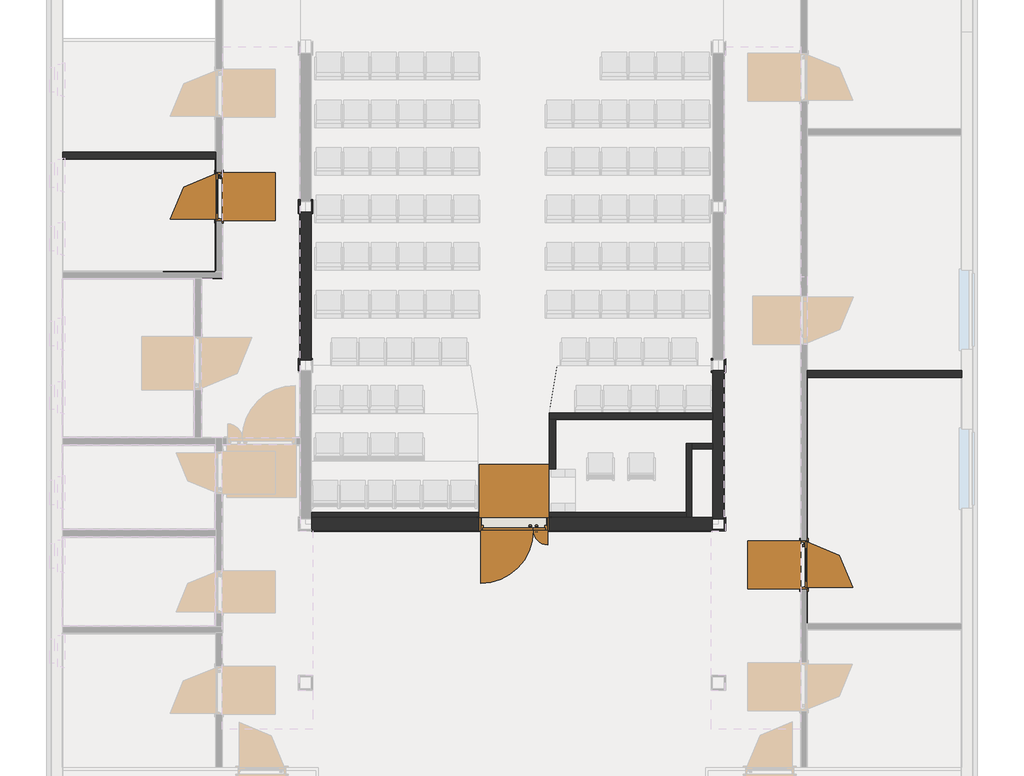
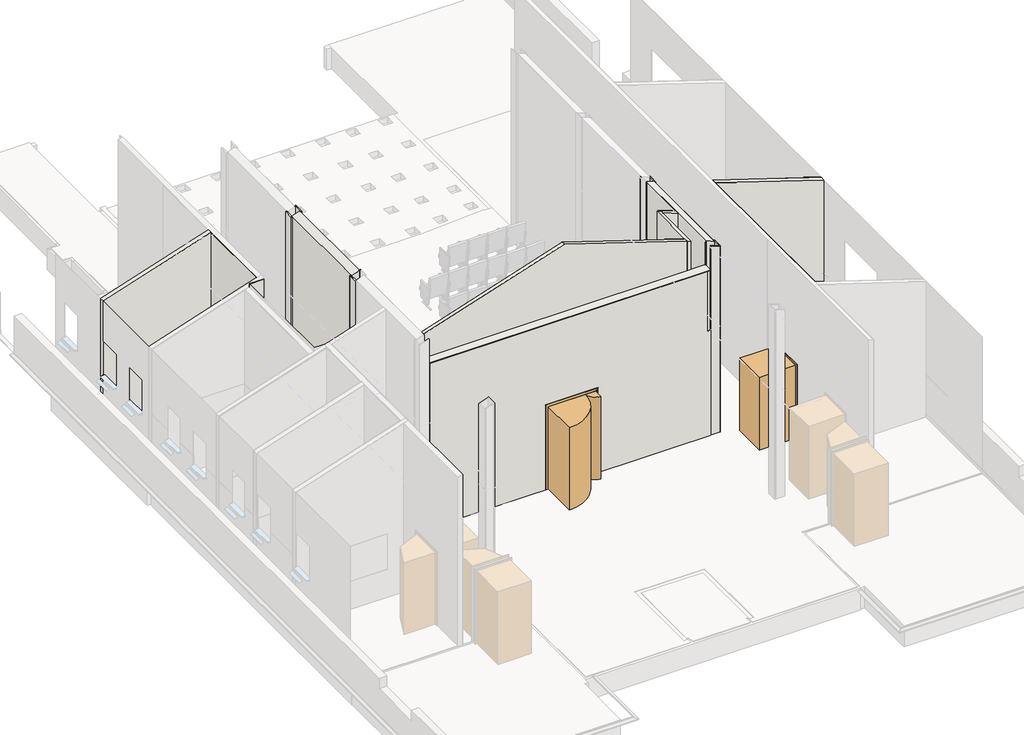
# One storey, part 5 of 12: 70 walls, 3 doors.
"""IFC4 building model written with IfcOpenShell, lengths in millimetres."""

from ifc_helpers import new_model, si_unit, frame, origin, origin_with_axes, place, context, project, spatial, polyline, outline, extrude, faceted_brep, transform, mapped, element, save
from components import door_23e4fe7f, door_8854af15, door_3526fbcb

model = new_model("IFC4")

# Units and contexts
model_context = context("Model", 3, world=origin())
ifc_project = project(units=[si_unit("LENGTHUNIT", "METRE", prefix="MILLI")], contexts=[model_context])

# Site, building, storey
site = spatial("IfcSite", under=ifc_project)
building = spatial("IfcBuilding", under=site)
storey = spatial("IfcBuildingStorey", under=building, Name="Этаж 01", Elevation=0.0)

# Doors
placement = place(None, origin())
door_shape = door_23e4fe7f(model_context)
element("IfcDoor", 1, ObjectType="Дверь_Деревянная_Внутренняя_Однопольная_ГОСТ_475-2016 : 0910 х 2070(h)_Пр_с Порогом", at=placement, inside=storey, context=model_context, shape_type="MappedRepresentation", body=[
    mapped(door_shape, transform((2862.0822865, 15194.9976367, 0.0), x_axis=(0.0, 1.0, 0.0), y_axis=(-1.0, 0.0, 0.0), z_axis=(0.0, 0.0, 1.0))),
])
door_2_shape = door_8854af15(model_context)
element("IfcDoor", 2, ObjectType="Дверь_Деревянная_Внутренняя_Двупольная_ГОСТ_475-2016 : 1310 х 2370(h)_Пр_с Порогом", at=placement, inside=storey, context=model_context, shape_type="MappedRepresentation", body=[
    mapped(door_2_shape, transform((8430.0, 8606.0, 0.0), x_axis=(1.0, 0.0, 0.0), y_axis=(0.0, 1.0, 0.0), z_axis=(0.0, 0.0, 1.0))),
])
door_3_shape = door_3526fbcb(model_context)
element("IfcDoor", 3, ObjectType="Дверь_Деревянная_Внутренняя_Однопольная_ГОСТ_475-2016 : 0910 х 2070(h)_Л_с Порогом", at=placement, inside=storey, context=model_context, shape_type="MappedRepresentation", body=[
    mapped(door_3_shape, transform((13920.675, 8230.0, 0.0), x_axis=(0.0, -1.0, 0.0), y_axis=(1.0, 0.0, 0.0), z_axis=(0.0, 0.0, 1.0))),
])

# Walls
element("IfcWall", 4, ObjectType="ADSK_Внутренняя_Кирпич_250", at=placement, inside=storey, context=model_context, shape_type="Brep", body=[
    faceted_brep([(4619.0630762, 8875.0, -1050.0), (12181.0630762, 8875.0, -1050.0), (12181.0630762, 8875.0, -627.0), (12181.0630762, 8875.0, -20.0), (12181.0630762, 8875.0, 0.0), (12181.0630762, 8875.0, 4695.0), (4619.0630762, 8875.0, 4695.0), (4619.0630762, 8875.0, 0.0), (4619.0630762, 8875.0, -20.0), (4619.0630762, 8875.0, -627.0), (9095.0, 8875.0, 2370.0), (9095.0, 8875.0, 0.0), (7785.0, 8875.0, 0.0), (7785.0, 8875.0, 2370.0), (12181.0630762, 9125.0, -1050.0), (4619.0630762, 9125.0, -1050.0), (4619.0630762, 9125.0, -612.0), (4619.0630762, 9125.0, -5.0), (4619.0630762, 9125.0, 4695.0), (12181.0630762, 9125.0, 4695.0), (12181.0630762, 9125.0, -5.0), (12181.0630762, 9125.0, -612.0), (9095.0, 9125.0, 0.0), (9095.0, 9125.0, 2370.0), (7785.0, 9125.0, 2370.0), (7785.0, 9125.0, 0.0)], [[[0, 1, 2, 3, 4, 5, 6, 7, 8, 9], [10, 11, 12, 13]], [[14, 15, 16, 17, 18, 19, 20, 21], [22, 23, 24, 25]], [[1, 0, 15, 14]], [[5, 4, 3, 2, 1, 14, 21, 20, 19]], [[6, 5, 19, 18]], [[0, 9, 8, 7, 6, 18, 17, 16, 15]], [[22, 11, 10, 23]], [[23, 10, 13, 24]], [[24, 13, 12, 25]], [[11, 22, 25, 12]]]),
])
element("IfcWall", 5, ObjectType="ADSK_Внутренняя_Кирпич_120", at=placement, inside=storey, context=model_context, shape_type="Brep", body=[
    faceted_brep([(-100.0, 15909.9976367, 100.0), (-99.0, 15909.9976367, 100.0), (-85.0, 15909.9976367, 100.0), (-85.0, 15909.9976367, -3.0), (2805.2572865, 15909.9976367, -3.0), (2805.2572865, 15909.9976367, 0.0), (2805.2572865, 15909.9976367, 4792.1143962), (-99.0, 15909.9976367, 3848.4414193), (-100.0, 15909.9976367, 3848.1164919), (-85.0, 16029.9976367, 100.0), (-100.0, 16029.9976367, 100.0), (-100.0, 16029.9976367, 3848.1164919), (2805.2572865, 16029.9976367, 4792.1143962), (2805.2572865, 16029.9976367, -3.0), (-85.0, 16029.9976367, -3.0)], [[[0, 1, 2, 3, 4, 5, 6, 7, 8]], [[9, 10, 11, 12, 13, 14]], [[12, 6, 5, 4, 13]], [[10, 9, 2, 1, 0]], [[2, 9, 14, 3]], [[8, 7, 6, 12, 11]], [[10, 0, 8, 11]], [[4, 3, 14, 13]]]),
])
element("IfcWall", 6, ObjectType="Перегородка-КНАУФ-С362-Применение внутри здания-125/75@600 ГВЛ(ГВЛВ)  12,5", at=placement, inside=storey, context=model_context, shape_type="Brep", body=[
    faceted_brep([(16900.0, 11775.0, 3848.1164919), (13980.0, 11775.0, 4796.9047088), (13980.0, 11775.0, -3.0), (16885.0, 11775.0, -3.0), (16885.0, 11775.0, 100.0), (16899.0, 11775.0, 100.0), (16900.0, 11775.0, 100.0), (13980.0, 11900.0, 4796.9047088), (16900.0, 11900.0, 3848.1164919), (16900.0, 11900.0, 100.0), (16899.0, 11900.0, 100.0), (16885.0, 11900.0, 100.0), (16885.0, 11900.0, -3.0), (13980.0, 11900.0, -3.0)], [[[0, 1, 2, 3, 4, 5, 6]], [[7, 8, 9, 10, 11, 12, 13]], [[1, 7, 13, 2]], [[11, 4, 3, 12]], [[1, 0, 8, 7]], [[3, 2, 13, 12]], [[8, 0, 6, 9]], [[6, 5, 4, 11, 10, 9]]]),
])
element("IfcWall", 7, ObjectType="Перегородка-КНАУФ-С365-Применение внутри здания-200/75@600 ГВЛ(ГВЛВ)  12,5", at=placement, inside=storey, context=model_context, shape_type="SweptSolid", body=[
    extrude(outline(polyline([(-20.0, 12405.0), (5308.6654765, 12405.0), (5376.9002455, 12195.0), (-20.0, 12195.0), (-20.0, 12405.0)])), frame((0.0, 9100.0, 0.0), z_axis=(0.0, 1.0, 0.0), x_axis=(0.0, 0.0, 1.0)), (0.0, 0.0, 1.0), 2800.0),
])
element("IfcWall", 8, ObjectType="Перегородка-КНАУФ-С365-Применение внутри здания-200/75@600 ГВЛ(ГВЛВ)  12,5", at=placement, inside=storey, context=model_context, shape_type="Brep", body=[
    faceted_brep([(4395.0630762, 14900.0, -20.0), (4395.0630762, 12100.0, -20.0), (4395.0630762, 12100.0, 5308.6859716), (4395.0630762, 12133.5, 5308.6859716), (4395.0630762, 14867.5, 5308.6859716), (4395.0630762, 14900.0, 5308.6859716), (4605.0630762, 14900.0, -20.0), (4605.0630762, 14900.0, 5376.9207407), (4605.0630762, 12100.0, 5376.9207407), (4605.0630762, 12100.0, -20.0)], [[[0, 1, 2, 3, 4, 5]], [[6, 7, 8, 9]], [[1, 0, 6, 9]], [[2, 1, 9, 8]], [[0, 5, 7, 6]], [[5, 4, 3, 2, 8, 7]]]),
])
element("IfcWall", 9, ObjectType="Облицовка КНАУФ С625 Применение внутри здания ПС100х50 ПН100х40 шаг 300 ГСП-А 12.5", at=placement, inside=storey, context=model_context, shape_type="Brep", body=[
    faceted_brep([(11795.0, 9125.0, 0.0), (11795.0, 10424.9970271, 0.0), (11795.0, 10524.9970271, 0.0), (11795.0, 10524.9970271, 5506.8712341), (11795.0, 10424.9970271, 5506.8712341), (11795.0, 9125.0, 5506.8712341), (11695.0, 9125.0, 0.0), (11695.0, 9125.0, 5539.3639813), (11695.0, 9225.0, 5539.3639813), (11695.0, 10524.9970271, 5539.3639813), (11695.0, 10524.9970271, 0.0), (11695.0, 9225.0, 0.0)], [[[0, 1, 2, 3, 4, 5]], [[6, 7, 8, 9, 10, 11]], [[2, 1, 0, 6, 11, 10]], [[0, 5, 7, 6]], [[3, 2, 10, 9]], [[5, 4, 3, 9, 8, 7]]]),
])
element("IfcWall", 10, ObjectType="Облицовка КНАУФ С625 Применение внутри здания ПС100х50 ПН100х40 шаг 300 ГСП-А 12.5", at=placement, inside=storey, context=model_context, shape_type="SweptSolid", body=[
    extrude(outline(polyline([(0.0, 11795.0), (0.0, 12195.0), (5376.9002455, 12195.0), (5506.8712341, 11795.0), (0.0, 11795.0)])), frame((0.0, 10424.9970271, 0.0), z_axis=(0.0, 1.0, 0.0), x_axis=(0.0, 0.0, 1.0)), (0.0, 0.0, 1.0), 100.0),
])
element("IfcWall", 11, ObjectType="Доска ДП-35", at=placement, inside=storey, context=model_context, shape_type="Brep", body=[
    faceted_brep([(9105.0, 10044.991998, -5.0), (9655.0, 10044.991998, -5.0), (9655.0, 10044.991998, 505.0), (9105.0, 10044.991998, 505.0), (9105.0, 10079.991998, -5.0), (9105.0, 10079.991998, 505.0), (9140.0, 10079.991998, 505.0), (9655.0, 10079.991998, 505.0), (9655.0, 10079.991998, -5.0), (9140.0, 10079.991998, -5.0)], [[[0, 1, 2, 3]], [[4, 5, 6, 7, 8, 9]], [[1, 0, 4, 9, 8]], [[2, 1, 8, 7]], [[3, 2, 7, 6, 5]], [[0, 3, 5, 4]]]),
])
element("IfcWall", 12, ObjectType="Доска ДП-35", at=placement, inside=storey, context=model_context, shape_type="Brep", body=[
    faceted_brep([(9140.0, 10079.991998, -5.0), (9140.0, 11086.7055724, -5.0), (9140.0, 11086.7055724, 145.0), (9140.0, 11084.9999997, 145.0), (9140.0, 11084.9999997, 180.0), (9140.0, 11084.9999997, 505.0), (9140.0, 11049.9999997, 505.0), (9140.0, 10079.991998, 505.0), (9105.0, 11089.5641537, -5.0), (9105.0, 10079.991998, -5.0), (9105.0, 10079.991998, 505.0), (9105.0, 11084.9999997, 505.0), (9105.0, 11084.9999997, 180.0), (9105.0, 11084.9999997, 145.0), (9105.0, 11089.5641537, 145.0)], [[[0, 1, 2, 3, 4, 5, 6, 7]], [[8, 9, 10, 11, 12, 13, 14]], [[1, 0, 9, 8]], [[7, 6, 5, 11, 10]], [[0, 7, 10, 9]], [[1, 8, 14, 2]], [[3, 13, 12, 11, 5, 4]], [[13, 3, 2, 14]]]),
])
element("IfcWall", 13, ObjectType="Доска ДП-35", at=placement, inside=storey, context=model_context, shape_type="Brep", body=[
    faceted_brep([(9140.0, 11086.7055724, -5.0), (9281.9639734, 11949.9999997, -5.0), (9287.719529, 11984.9999997, -5.0), (9287.719529, 11984.9999997, 145.0), (9281.9639734, 11949.9999997, 145.0), (9140.0, 11086.7055724, 145.0), (9105.0, 11089.5641537, -5.0), (9105.0, 11089.5641537, 145.0), (9252.2494511, 11984.9999997, 145.0), (9252.2494511, 11984.9999997, -5.0)], [[[0, 1, 2, 3, 4, 5]], [[6, 7, 8, 9]], [[2, 1, 0, 6, 9]], [[5, 4, 3, 8, 7]], [[3, 2, 9, 8]], [[0, 5, 7, 6]]]),
])
element("IfcWall", 14, ObjectType="Доска ДП-35", at=placement, inside=storey, context=model_context, shape_type="SweptSolid", body=[
    extrude(outline(polyline([(12195.0, 11949.9999997), (9281.9639734, 11949.9999997), (9287.719529, 11984.9999997), (12195.0, 11984.9999997), (12195.0, 11949.9999997)])), frame((0.0, 0.0, -5.0), z_axis=(0.0, 0.0, 1.0), x_axis=(1.0, 0.0, 0.0)), (0.0, 0.0, 1.0), 150.0),
])
element("IfcWall", 15, ObjectType="Доска ДП-35", at=placement, inside=storey, context=model_context, shape_type="SweptSolid", body=[
    extrude(outline(polyline([(12195.0, 11049.9999997), (9140.0, 11049.9999997), (9140.0, 11084.9999997), (12195.0, 11084.9999997), (12195.0, 11049.9999997)])), frame((0.0, 0.0, 180.0), z_axis=(0.0, 0.0, 1.0), x_axis=(1.0, 0.0, 0.0)), (0.0, 0.0, 1.0), 325.0),
])
element("IfcWall", 16, ObjectType="Перегородка-КНАУФ-С362-Применение внутри здания-100/50@600 ГВЛ(ГВЛВ) 12,5", at=placement, inside=storey, context=model_context, shape_type="Brep", body=[
    faceted_brep([(9105.0, 10975.0, 540.0), (9230.0, 10975.0, 540.0), (12195.0, 10975.0, 540.0), (12195.0, 10975.0, 1440.0), (9230.0, 10975.0, 1440.0), (9105.0, 10975.0, 1440.0), (9105.0, 11100.0, 540.0), (9105.0, 11100.0, 1440.0), (12195.0, 11100.0, 1440.0), (12195.0, 11100.0, 540.0)], [[[0, 1, 2, 3, 4, 5]], [[6, 7, 8, 9]], [[2, 1, 0, 6, 9]], [[5, 4, 3, 8, 7]], [[0, 5, 7, 6]], [[3, 2, 9, 8]]]),
])
element("IfcWall", 17, ObjectType="Перегородка-КНАУФ-С362-Применение внутри здания-100/50@600 ГВЛ(ГВЛВ) 12,5", at=placement, inside=storey, context=model_context, shape_type="SweptSolid", body=[
    extrude(outline(polyline([(9230.0, 10975.0), (9230.0, 10045.0), (9105.0, 10045.0), (9105.0, 10975.0), (9230.0, 10975.0)])), frame((0.0, 0.0, 540.0), z_axis=(0.0, 0.0, 1.0), x_axis=(1.0, 0.0, 0.0)), (0.0, 0.0, 1.0), 900.0),
])
element("IfcWall", 18, ObjectType="Отделка - Акриловая покраска_1 мм_Улучш. штук. по кирп._9 мм", at=placement, inside=storey, context=model_context, shape_type="Brep", body=[
    faceted_brep([(2805.2572865, 15909.9976367, 0.0), (-100.0, 15909.9976367, 0.0), (-100.0, 15909.9976367, 100.0), (-100.0, 15909.9976367, 3848.1164919), (2805.2572865, 15909.9976367, 4792.1143962), (2805.2572865, 15899.9976367, 0.0), (2805.2572865, 15899.9976367, 4792.1143962), (2795.2572865, 15899.9976367, 4788.8651214), (-100.0, 15899.9976367, 3848.1164919), (-100.0, 15899.9976367, 2700.0), (-100.0, 15899.9976367, 1700.0), (-100.0, 15899.9976367, 0.0), (2795.2572865, 15899.9976367, 0.0)], [[[0, 1, 2, 3, 4]], [[5, 6, 7, 8, 9, 10, 11, 12]], [[1, 0, 5, 12, 11]], [[0, 4, 6, 5]], [[4, 3, 8, 7, 6]], [[1, 11, 10, 9, 8, 3, 2]]]),
])
element("IfcWall", 19, ObjectType="Отделка - Акриловая покраска_1 мм_Улучш. штук. по кирп._9 мм", at=placement, inside=storey, context=model_context, shape_type="Brep", body=[
    faceted_brep([(2805.2572865, 15899.9976367, 0.0), (2805.2572865, 15899.9976367, 4792.1143962), (2805.2572865, 13780.0024506, 4792.1143962), (2805.2572865, 13780.0024506, 0.0), (2805.2572865, 14739.9976367, 0.0), (2805.2572865, 14739.9976367, 2070.0), (2805.2572865, 15649.9976367, 2070.0), (2805.2572865, 15649.9976367, 0.0), (2795.2572865, 15899.9976367, 4788.8651214), (2795.2572865, 15899.9976367, 0.0), (2795.2572865, 15649.9976367, 0.0), (2795.2572865, 15649.9976367, 2070.0), (2795.2572865, 14739.9976367, 2070.0), (2795.2572865, 14739.9976367, 0.0), (2795.2572865, 13780.0024506, 0.0), (2795.2572865, 13780.0024506, 800.0), (2795.2572865, 13780.0024506, 1800.0), (2795.2572865, 13780.0024506, 4788.8651214)], [[[0, 1, 2, 3, 4, 5, 6, 7]], [[8, 9, 10, 11, 12, 13, 14, 15, 16, 17]], [[9, 0, 7, 10]], [[3, 14, 13, 4]], [[1, 0, 9, 8]], [[2, 1, 8, 17]], [[6, 11, 10, 7]], [[11, 6, 5, 12]], [[12, 5, 4, 13]], [[14, 3, 2, 17, 16, 15]]]),
])
element("IfcWall", 20, ObjectType="Облицовка КНАУФ С 623C Применение внутри здания ПП60/27 ПН28х27 ГСП-А 12.5 Акустика 12.5", at=placement, inside=storey, context=model_context, shape_type="Brep", body=[
    faceted_brep([(11695.0, 9125.0, 0.0), (11695.0, 9125.0, 5539.3639813), (8400.0, 9125.0, 6610.0), (4619.0630762, 9125.0, 5381.4697253), (4605.0630762, 9125.0, 5376.9207407), (4605.0630762, 9125.0, 0.0), (7785.0, 9125.0, 0.0), (7785.0, 9125.0, 2370.0), (9095.0, 9125.0, 2370.0), (9095.0, 9125.0, 0.0), (11695.0, 9225.0, 5539.3639813), (11695.0, 9225.0, 0.0), (11694.0, 9225.0, 0.0), (9095.0, 9225.0, 0.0), (9095.0, 9225.0, 2370.0), (7785.0, 9225.0, 2370.0), (7785.0, 9225.0, 0.0), (4606.0630762, 9225.0, 0.0), (4605.0630762, 9225.0, 0.0), (4605.0630762, 9225.0, 5376.9207407), (4606.0630762, 9225.0, 5377.2456681), (8400.0, 9225.0, 6610.0), (11694.0, 9225.0, 5539.6889087)], [[[0, 1, 2, 3, 4, 5, 6, 7, 8, 9]], [[10, 11, 12, 13, 14, 15, 16, 17, 18, 19, 20, 21, 22]], [[11, 0, 9, 13, 12]], [[5, 18, 17, 16, 6]], [[1, 0, 11, 10]], [[8, 14, 13, 9]], [[14, 8, 7, 15]], [[15, 7, 6, 16]], [[4, 3, 2, 21, 20, 19]], [[1, 10, 22, 21, 2]], [[5, 4, 19, 18]]]),
])
element("IfcWall", 21, ObjectType="Отделка - Акриловая покраска_1 мм_Улучш. штук. по кирп._9 мм", at=placement, inside=storey, context=model_context, shape_type="Brep", body=[
    faceted_brep([(2925.2572865, 13650.0024506, 0.0), (2525.0415712, 13650.0024506, 0.0), (2525.0415712, 13650.0024506, 4792.1143962), (2925.2572865, 13650.0024506, 4792.1143962), (2925.2572865, 13640.0024506, 0.0), (2925.2572865, 13640.0024506, 4792.1143962), (2535.0415712, 13640.0024506, 4792.1143962), (2525.0415712, 13640.0024506, 4792.1143962), (2525.0415712, 13640.0024506, 0.0), (2535.0415712, 13640.0024506, 0.0)], [[[0, 1, 2, 3]], [[4, 5, 6, 7, 8, 9]], [[1, 0, 4, 9, 8]], [[3, 2, 7, 6, 5]], [[0, 3, 5, 4]], [[2, 1, 8, 7]]]),
])
element("IfcWall", 22, ObjectType="Отделка - Акриловая покраска по Кнауф-суперлистам_1 мм", at=placement, inside=storey, context=model_context, shape_type="SweptSolid", body=[
    extrude(outline(polyline([(0.0, 13981.0), (0.0, 16885.0), (100.0, 16885.0), (100.0, 16900.0), (3848.1164919, 16900.0), (4796.5797813, 13981.0), (0.0, 13981.0)])), frame((0.0, 11900.0, 0.0), z_axis=(0.0, 1.0, 0.0), x_axis=(0.0, 0.0, 1.0)), (0.0, 0.0, 1.0), 1.0),
])
element("IfcWall", 23, ObjectType="Отделка - Акриловая покраска по Кнауф-суперлистам_1 мм", at=placement, inside=storey, context=model_context, shape_type="Brep", body=[
    faceted_brep([(16885.0, 11775.0, 0.0), (13980.0, 11775.0, 0.0), (13980.0, 11775.0, 4796.9047088), (16900.0, 11775.0, 3848.1164919), (16900.0, 11775.0, 100.0), (16885.0, 11775.0, 100.0), (16885.0, 11774.0, 0.0), (16885.0, 11774.0, 100.0), (16900.0, 11774.0, 100.0), (16900.0, 11774.0, 3848.1164919), (13981.0, 11774.0, 4796.5797813), (13980.0, 11774.0, 4796.9047088), (13980.0, 11774.0, 0.0), (13981.0, 11774.0, 0.0)], [[[0, 1, 2, 3, 4, 5]], [[6, 7, 8, 9, 10, 11, 12, 13]], [[1, 0, 6, 13, 12]], [[4, 8, 7, 5]], [[0, 5, 7, 6]], [[3, 9, 8, 4]], [[3, 2, 11, 10, 9]], [[2, 1, 12, 11]]]),
])
element("IfcWall", 24, ObjectType="Отделка - Акриловая покраска по Кнауф-суперлистам_1 мм", at=placement, inside=storey, context=model_context, shape_type="Brep", body=[
    faceted_brep([(13980.0, 7125.0, 4796.9047088), (13980.0, 11774.0, 4796.9047088), (13980.0, 11774.0, 0.0), (13980.0, 8685.0, 0.0), (13980.0, 8685.0, 2070.0), (13980.0, 7775.0, 2070.0), (13980.0, 7775.0, 0.0), (13980.0, 7125.0, 0.0), (13981.0, 11774.0, 4796.5797813), (13981.0, 7126.0, 4796.5797813), (13981.0, 7125.0, 4796.5797813), (13981.0, 7125.0, 0.0), (13981.0, 7126.0, 0.0), (13981.0, 7775.0, 0.0), (13981.0, 7775.0, 2070.0), (13981.0, 8685.0, 2070.0), (13981.0, 8685.0, 0.0), (13981.0, 11774.0, 0.0)], [[[0, 1, 2, 3, 4, 5, 6, 7]], [[8, 9, 10, 11, 12, 13, 14, 15, 16, 17]], [[11, 7, 6, 13, 12]], [[2, 17, 16, 3]], [[5, 14, 13, 6]], [[14, 5, 4, 15]], [[15, 4, 3, 16]], [[1, 0, 10, 9, 8]], [[0, 7, 11, 10]], [[2, 1, 8, 17]]]),
])
element("IfcWall", 25, ObjectType="Облицовка КНАУФ 12,5", at=placement, inside=storey, context=model_context, shape_type="Brep", body=[
    faceted_brep([(4395.0630762, 15132.5, 0.0), (4362.0630759, 15132.5, 0.0), (4362.0630759, 15132.5, 5297.963365), (4395.0630762, 15132.5, 5308.6859716), (4395.0630762, 15107.5, 0.0), (4395.0630762, 15107.5, 5308.6859716), (4387.0630759, 15107.5, 5306.0865518), (4362.0630759, 15107.5, 5297.963365), (4362.0630759, 15107.5, 0.0), (4387.0630759, 15107.5, 0.0)], [[[0, 1, 2, 3]], [[4, 5, 6, 7, 8, 9]], [[1, 0, 4, 9, 8]], [[0, 3, 5, 4]], [[2, 1, 8, 7]], [[3, 2, 7, 6, 5]]]),
])
element("IfcWall", 26, ObjectType="Облицовка КНАУФ 12,5", at=placement, inside=storey, context=model_context, shape_type="SweptSolid", body=[
    extrude(outline(polyline([(5297.963365, 4362.0630759), (0.0, 4362.0630759), (0.0, 4387.0630759), (5306.0865518, 4387.0630759), (5297.963365, 4362.0630759)])), frame((0.0, 14892.5, 0.0), z_axis=(0.0, 1.0, 0.0), x_axis=(0.0, 0.0, 1.0)), (0.0, 0.0, 1.0), 215.0),
])
element("IfcWall", 27, ObjectType="Облицовка КНАУФ 12,5", at=placement, inside=storey, context=model_context, shape_type="Brep", body=[
    faceted_brep([(4362.0630759, 14867.5, 0.0), (4395.0630762, 14867.5, 0.0), (4395.0630762, 14867.5, 5308.6859716), (4362.0630759, 14867.5, 5297.963365), (4362.0630759, 14892.5, 0.0), (4362.0630759, 14892.5, 5297.963365), (4387.0630759, 14892.5, 5306.0865518), (4395.0630762, 14892.5, 5308.6859716), (4395.0630762, 14892.5, 0.0), (4387.0630759, 14892.5, 0.0)], [[[0, 1, 2, 3]], [[4, 5, 6, 7, 8, 9]], [[1, 0, 4, 9, 8]], [[2, 1, 8, 7]], [[0, 3, 5, 4]], [[3, 2, 7, 6, 5]]]),
])
element("IfcWall", 28, ObjectType="Облицовка КНАУФ 12,5", at=placement, inside=storey, context=model_context, shape_type="Brep", body=[
    faceted_brep([(4605.0630762, 15107.5, 0.0), (4613.0630765, 15107.5, 0.0), (4638.0630765, 15107.5, 0.0), (4638.0630765, 15107.5, 5387.6433473), (4613.0630765, 15107.5, 5379.5201605), (4605.0630762, 15107.5, 5376.9207407), (4605.0630762, 15132.5, 0.0), (4605.0630762, 15132.5, 5376.9207407), (4638.0630765, 15132.5, 5387.6433473), (4638.0630765, 15132.5, 0.0)], [[[0, 1, 2, 3, 4, 5]], [[6, 7, 8, 9]], [[2, 1, 0, 6, 9]], [[0, 5, 7, 6]], [[3, 2, 9, 8]], [[5, 4, 3, 8, 7]]]),
])
element("IfcWall", 29, ObjectType="Облицовка КНАУФ 12,5", at=placement, inside=storey, context=model_context, shape_type="Brep", body=[
    faceted_brep([(4613.0630765, 15107.5, 0.0), (4613.0630765, 14892.5, 0.0), (4613.0630765, 14867.5, 0.0), (4613.0630765, 14867.5, 5379.5201605), (4613.0630765, 14892.5, 5379.5201605), (4613.0630765, 15107.5, 5379.5201605), (4638.0630765, 15107.5, 0.0), (4638.0630765, 15107.5, 5387.6433473), (4638.0630765, 14867.5, 5387.6433473), (4638.0630765, 14867.5, 0.0)], [[[0, 1, 2, 3, 4, 5]], [[6, 7, 8, 9]], [[2, 1, 0, 6, 9]], [[3, 2, 9, 8]], [[0, 5, 7, 6]], [[5, 4, 3, 8, 7]]]),
])
element("IfcWall", 30, ObjectType="Облицовка КНАУФ 12,5", at=placement, inside=storey, context=model_context, shape_type="SweptSolid", body=[
    extrude(outline(polyline([(0.0, 4613.0630765), (5379.5201605, 4613.0630765), (5376.9207407, 4605.0630762), (0.0, 4605.0630762), (0.0, 4613.0630765)])), frame((0.0, 14867.5, 0.0), z_axis=(0.0, 1.0, 0.0), x_axis=(0.0, 0.0, 1.0)), (0.0, 0.0, 1.0), 25.0),
])
element("IfcWall", 31, ObjectType="Облицовка КНАУФ 12,5", at=placement, inside=storey, context=model_context, shape_type="Brep", body=[
    faceted_brep([(4395.0630762, 12132.5, 0.0), (4362.0630759, 12132.5, 0.0), (4362.0630759, 12132.5, 5297.963365), (4395.0630762, 12132.5, 5308.6859716), (4395.0630762, 12107.5, 0.0), (4395.0630762, 12107.5, 5308.6859716), (4387.0630759, 12107.5, 5306.0865518), (4362.0630759, 12107.5, 5297.963365), (4362.0630759, 12107.5, 0.0), (4387.0630759, 12107.5, 0.0)], [[[0, 1, 2, 3]], [[4, 5, 6, 7, 8, 9]], [[1, 0, 4, 9, 8]], [[0, 3, 5, 4]], [[2, 1, 8, 7]], [[3, 2, 7, 6, 5]]]),
])
element("IfcWall", 32, ObjectType="Облицовка КНАУФ 12,5", at=placement, inside=storey, context=model_context, shape_type="SweptSolid", body=[
    extrude(outline(polyline([(5297.963365, 4362.0630759), (0.0, 4362.0630759), (0.0, 4387.0630759), (5306.0865518, 4387.0630759), (5297.963365, 4362.0630759)])), frame((0.0, 11892.5, 0.0), z_axis=(0.0, 1.0, 0.0), x_axis=(0.0, 0.0, 1.0)), (0.0, 0.0, 1.0), 215.0),
])
element("IfcWall", 33, ObjectType="Облицовка КНАУФ 12,5", at=placement, inside=storey, context=model_context, shape_type="Brep", body=[
    faceted_brep([(4605.0630762, 12107.5, 0.0), (4613.0630765, 12107.5, 0.0), (4638.0630765, 12107.5, 0.0), (4638.0630765, 12107.5, 5387.6433473), (4613.0630765, 12107.5, 5379.5201605), (4605.0630762, 12107.5, 5376.9207407), (4605.0630762, 12132.5, 0.0), (4605.0630762, 12132.5, 5376.9207407), (4638.0630765, 12132.5, 5387.6433473), (4638.0630765, 12132.5, 0.0)], [[[0, 1, 2, 3, 4, 5]], [[6, 7, 8, 9]], [[2, 1, 0, 6, 9]], [[0, 5, 7, 6]], [[3, 2, 9, 8]], [[5, 4, 3, 8, 7]]]),
])
element("IfcWall", 34, ObjectType="Облицовка КНАУФ 12,5", at=placement, inside=storey, context=model_context, shape_type="Brep", body=[
    faceted_brep([(12195.0, 12132.5, 0.0), (12161.9999997, 12132.5, 0.0), (12161.9999997, 12132.5, 5387.6228521), (12195.0, 12132.5, 5376.9002455), (12195.0, 12107.5, 0.0), (12195.0, 12107.5, 5376.9002455), (12186.9999997, 12107.5, 5379.4996654), (12161.9999997, 12107.5, 5387.6228521), (12161.9999997, 12107.5, 0.0), (12186.9999997, 12107.5, 0.0)], [[[0, 1, 2, 3]], [[4, 5, 6, 7, 8, 9]], [[1, 0, 4, 9, 8]], [[0, 3, 5, 4]], [[2, 1, 8, 7]], [[3, 2, 7, 6, 5]]]),
])
element("IfcWall", 35, ObjectType="Облицовка КНАУФ 12,5", at=placement, inside=storey, context=model_context, shape_type="Brep", body=[
    faceted_brep([(12161.9999997, 11867.5, 0.0), (12195.0, 11867.5, 0.0), (12195.0, 11867.5, 5376.9002455), (12161.9999997, 11867.5, 5387.6228521), (12161.9999997, 11892.5, 0.0), (12161.9999997, 11892.5, 5387.6228521), (12186.9999997, 11892.5, 5379.4996654), (12195.0, 11892.5, 5376.9002455), (12195.0, 11892.5, 0.0), (12186.9999997, 11892.5, 0.0)], [[[0, 1, 2, 3]], [[4, 5, 6, 7, 8, 9]], [[1, 0, 4, 9, 8]], [[2, 1, 8, 7]], [[0, 3, 5, 4]], [[3, 2, 7, 6, 5]]]),
])
element("IfcWall", 36, ObjectType="Облицовка КНАУФ 12,5", at=placement, inside=storey, context=model_context, shape_type="Brep", body=[
    faceted_brep([(12413.0000003, 12107.5, 0.0), (12413.0000003, 11892.5, 0.0), (12413.0000003, 11867.5, 0.0), (12413.0000003, 11867.5, 5306.0660566), (12413.0000003, 11892.5, 5306.0660566), (12413.0000003, 12107.5, 5306.0660566), (12438.0000003, 12107.5, 0.0), (12438.0000003, 12107.5, 5297.9428698), (12438.0000003, 11867.5, 5297.9428698), (12438.0000003, 11867.5, 0.0)], [[[0, 1, 2, 3, 4, 5]], [[6, 7, 8, 9]], [[2, 1, 0, 6, 9]], [[3, 2, 9, 8]], [[0, 5, 7, 6]], [[5, 4, 3, 8, 7]]]),
])
element("IfcWall", 37, ObjectType="Облицовка КНАУФ 12,5", at=placement, inside=storey, context=model_context, shape_type="SweptSolid", body=[
    extrude(outline(polyline([(0.0, 12413.0000003), (5306.0660566, 12413.0000003), (5308.6654765, 12405.0), (0.0, 12405.0), (0.0, 12413.0000003)])), frame((0.0, 11867.5, 0.0), z_axis=(0.0, 1.0, 0.0), x_axis=(0.0, 0.0, 1.0)), (0.0, 0.0, 1.0), 25.0),
])
element("IfcWall", 38, ObjectType="Облицовка КНАУФ 12,5", at=placement, inside=storey, context=model_context, shape_type="Brep", body=[
    faceted_brep([(12181.0630762, 8875.0, 0.0), (12437.4369238, 8875.0, 0.0), (12437.4369238, 8875.0, 5298.1258288), (12181.0630762, 8875.0, 5381.4287349), (12181.0630762, 8875.0, 4695.0), (12181.0630762, 8900.0, 0.0), (12181.0630762, 8900.0, 5381.4287349), (12412.4369238, 8900.0, 5306.2490156), (12437.4369238, 8900.0, 5298.1258288), (12437.4369238, 8900.0, 0.0), (12412.4369238, 8900.0, 0.0)], [[[0, 1, 2, 3, 4]], [[5, 6, 7, 8, 9, 10]], [[1, 0, 5, 10, 9]], [[0, 4, 3, 6, 5]], [[2, 1, 9, 8]], [[3, 2, 8, 7, 6]]]),
])
element("IfcWall", 39, ObjectType="Облицовка КНАУФ 12,5", at=placement, inside=storey, context=model_context, shape_type="SweptSolid", body=[
    extrude(outline(polyline([(5306.2490156, 12412.4369238), (0.0, 12412.4369238), (0.0, 12437.4369238), (5298.1258288, 12437.4369238), (5306.2490156, 12412.4369238)])), frame((0.0, 8900.0, 0.0), z_axis=(0.0, 1.0, 0.0), x_axis=(0.0, 0.0, 1.0)), (0.0, 0.0, 1.0), 207.0),
])
element("IfcWall", 40, ObjectType="Облицовка КНАУФ 12,5", at=placement, inside=storey, context=model_context, shape_type="Brep", body=[
    faceted_brep([(12404.9369238, 9107.0, 0.0), (12412.4369238, 9107.0, 0.0), (12437.4369238, 9107.0, 0.0), (12437.4369238, 9107.0, 5298.1258288), (12412.4369238, 9107.0, 5306.2490156), (12404.9369238, 9107.0, 5308.6859716), (12404.9369238, 9132.0, 0.0), (12404.9369238, 9132.0, 5308.6859716), (12437.4369238, 9132.0, 5298.1258288), (12437.4369238, 9132.0, 0.0)], [[[0, 1, 2, 3, 4, 5]], [[6, 7, 8, 9]], [[2, 1, 0, 6, 9]], [[0, 5, 7, 6]], [[3, 2, 9, 8]], [[5, 4, 3, 8, 7]]]),
])
element("IfcWall", 41, ObjectType="Облицовка КНАУФ 12,5", at=placement, inside=storey, context=model_context, shape_type="Brep", body=[
    faceted_brep([(12195.0630762, 9125.0, 0.0), (12181.0630762, 9125.0, 0.0), (12181.0630762, 9125.0, 4695.0), (12181.0630762, 9125.0, 5381.4287349), (12195.0630762, 9125.0, 5376.8797503), (12195.0630762, 9100.0, 0.0), (12195.0630762, 9100.0, 5376.8797503), (12181.0630762, 9100.0, 5381.4287349), (12181.0630762, 9100.0, 0.0)], [[[0, 1, 2, 3, 4]], [[5, 6, 7, 8]], [[1, 0, 5, 8]], [[3, 2, 1, 8, 7]], [[0, 4, 6, 5]], [[4, 3, 7, 6]]]),
])
element("IfcWall", 42, ObjectType="Отделка - Акриловая покраска по Кнауф-суперлистам_1 мм", at=placement, inside=storey, context=model_context, shape_type="SweptSolid", body=[
    extrude(outline(polyline([(0.0, 4395.0630762), (5308.6859716, 4395.0630762), (5308.3610442, 4394.0630762), (0.0, 4394.0630762), (0.0, 4395.0630762)])), frame((0.0, 15042.5, 0.0), z_axis=(0.0, 1.0, 0.0), x_axis=(0.0, 0.0, 1.0)), (0.0, 0.0, 1.0), 52.7588455),
])
element("IfcWall", 43, ObjectType="Отделка - Акриловая покраска по Кнауф-суперлистам_1 мм", at=placement, inside=storey, context=model_context, shape_type="Brep", body=[
    faceted_brep([(4394.0630762, 14867.5, 0.0), (4362.0630762, 14867.5, 0.0), (4361.0630762, 14867.5, 0.0), (4361.0630762, 14867.5, 5297.6384376), (4362.0630762, 14867.5, 5297.9633651), (4394.0630762, 14867.5, 5308.3610442), (4394.0630762, 14866.5, 0.0), (4394.0630762, 14866.5, 5308.3610442), (4361.0630762, 14866.5, 5297.6384376), (4361.0630762, 14866.5, 0.0)], [[[0, 1, 2, 3, 4, 5]], [[6, 7, 8, 9]], [[2, 1, 0, 6, 9]], [[3, 2, 9, 8]], [[0, 5, 7, 6]], [[5, 4, 3, 8, 7]]]),
])
element("IfcWall", 44, ObjectType="Отделка - Акриловая покраска по Кнауф-суперлистам_1 мм", at=placement, inside=storey, context=model_context, shape_type="Brep", body=[
    faceted_brep([(4362.0630762, 14867.5, 0.0), (4362.0630762, 15132.5, 0.0), (4362.0630762, 15133.5, 0.0), (4362.0630762, 15133.5, 5297.9633651), (4362.0630762, 15132.5, 5297.9633651), (4362.0630762, 14867.5, 5297.9633651), (4361.0630762, 14867.5, 0.0), (4361.0630762, 14867.5, 5297.6384376), (4361.0630762, 15133.5, 5297.6384376), (4361.0630762, 15133.5, 0.0)], [[[0, 1, 2, 3, 4, 5]], [[6, 7, 8, 9]], [[2, 1, 0, 6, 9]], [[0, 5, 7, 6]], [[3, 2, 9, 8]], [[5, 4, 3, 8, 7]]]),
])
element("IfcWall", 45, ObjectType="Отделка - Акриловая покраска по Кнауф-суперлистам_1 мм", at=placement, inside=storey, context=model_context, shape_type="Brep", body=[
    faceted_brep([(4362.0630762, 15132.5, 0.0), (4395.0630762, 15132.5, 0.0), (4395.0630762, 15132.5, 5308.6859716), (4362.0630762, 15132.5, 5297.9633651), (4362.0630762, 15133.5, 0.0), (4362.0630762, 15133.5, 5297.9633651), (4394.0630762, 15133.5, 5308.3610442), (4395.0630762, 15133.5, 5308.6859716), (4395.0630762, 15133.5, 0.0), (4394.0630762, 15133.5, 0.0)], [[[0, 1, 2, 3]], [[4, 5, 6, 7, 8, 9]], [[1, 0, 4, 9, 8]], [[0, 3, 5, 4]], [[2, 1, 8, 7]], [[3, 2, 7, 6, 5]]]),
])
element("IfcWall", 46, ObjectType="Отделка - Акриловая покраска по Кнауф-суперлистам_1 мм", at=placement, inside=storey, context=model_context, shape_type="Brep", body=[
    faceted_brep([(4362.0630762, 11867.5, 0.0), (4362.0630762, 12132.5, 0.0), (4362.0630762, 12133.5, 0.0), (4362.0630762, 12133.5, 5297.9633651), (4362.0630762, 12132.5, 5297.9633651), (4362.0630762, 11867.5, 5297.9633651), (4361.0630762, 11867.5, 0.0), (4361.0630762, 11867.5, 5297.6384376), (4361.0630762, 12133.5, 5297.6384376), (4361.0630762, 12133.5, 0.0)], [[[0, 1, 2, 3, 4, 5]], [[6, 7, 8, 9]], [[2, 1, 0, 6, 9]], [[0, 5, 7, 6]], [[3, 2, 9, 8]], [[5, 4, 3, 8, 7]]]),
])
element("IfcWall", 47, ObjectType="Отделка - Акриловая покраска по Кнауф-суперлистам_1 мм", at=placement, inside=storey, context=model_context, shape_type="Brep", body=[
    faceted_brep([(4362.0630762, 12132.5, 0.0), (4395.0630762, 12132.5, 0.0), (4395.0630762, 12132.5, 5308.6859716), (4362.0630762, 12132.5, 5297.9633651), (4362.0630762, 12133.5, 0.0), (4362.0630762, 12133.5, 5297.9633651), (4394.0630762, 12133.5, 5308.3610442), (4395.0630762, 12133.5, 5308.6859716), (4395.0630762, 12133.5, 0.0), (4394.0630762, 12133.5, 0.0)], [[[0, 1, 2, 3]], [[4, 5, 6, 7, 8, 9]], [[1, 0, 4, 9, 8]], [[0, 3, 5, 4]], [[2, 1, 8, 7]], [[3, 2, 7, 6, 5]]]),
])
element("IfcWall", 48, ObjectType="Отделка - Акриловая покраска по Кнауф-суперлистам_1 мм", at=placement, inside=storey, context=model_context, shape_type="Brep", body=[
    faceted_brep([(4395.0630762, 12133.5, 0.0), (4395.0630762, 14867.5, 0.0), (4395.0630762, 14867.5, 5308.6859716), (4395.0630762, 12133.5, 5308.6859716), (4394.0630762, 12133.5, 0.0), (4394.0630762, 12133.5, 5308.3610442), (4394.0630762, 14866.5, 5308.3610442), (4394.0630762, 14867.5, 5308.3610442), (4394.0630762, 14867.5, 0.0), (4394.0630762, 14866.5, 0.0)], [[[0, 1, 2, 3]], [[4, 5, 6, 7, 8, 9]], [[1, 0, 4, 9, 8]], [[3, 2, 7, 6, 5]], [[2, 1, 8, 7]], [[0, 3, 5, 4]]]),
])
element("IfcWall", 49, ObjectType="Отделка - Акриловая покраска по Кнауф-суперлистам_1 мм", at=placement, inside=storey, context=model_context, shape_type="Brep", body=[
    faceted_brep([(12405.0, 9132.0, 0.0), (12437.4369238, 9132.0, 0.0), (12437.4369238, 9132.0, 5298.1258288), (12405.0, 9132.0, 5308.6654765), (12405.0, 9133.0, 0.0), (12405.0, 9133.0, 5308.6654765), (12406.0, 9133.0, 5308.340549), (12437.4369238, 9133.0, 5298.1258288), (12437.4369238, 9133.0, 0.0), (12406.0, 9133.0, 0.0)], [[[0, 1, 2, 3]], [[4, 5, 6, 7, 8, 9]], [[1, 0, 4, 9, 8]], [[0, 3, 5, 4]], [[3, 2, 7, 6, 5]], [[2, 1, 8, 7]]]),
])
element("IfcWall", 50, ObjectType="Отделка - Акриловая покраска по Кнауф-суперлистам_1 мм", at=placement, inside=storey, context=model_context, shape_type="Brep", body=[
    faceted_brep([(12437.4369238, 9000.0, 0.0), (12437.4369238, 8875.0, 0.0), (12437.4369238, 8874.0, 0.0), (12437.4369238, 8874.0, 5298.1258288), (12437.4369238, 8875.0, 5298.1258288), (12437.4369238, 9000.0, 5298.1258288), (12438.4369238, 9000.0, 0.0), (12438.4369238, 9000.0, 5297.8009014), (12438.4369238, 8874.0, 5297.8009014), (12438.4369238, 8874.0, 0.0)], [[[0, 1, 2, 3, 4, 5]], [[6, 7, 8, 9]], [[2, 1, 0, 6, 9]], [[0, 5, 7, 6]], [[3, 2, 9, 8]], [[5, 4, 3, 8, 7]]]),
])
element("IfcWall", 51, ObjectType="Отделка - Акриловая покраска по Кнауф-суперлистам_1 мм", at=placement, inside=storey, context=model_context, shape_type="Brep", body=[
    faceted_brep([(12437.4369238, 8875.0, 0.0), (12181.0630762, 8875.0, 0.0), (12181.0630762, 8875.0, 4695.0), (12181.0630762, 8875.0, 5381.4287349), (12437.4369238, 8875.0, 5298.1258288), (12437.4369238, 8874.0, 0.0), (12437.4369238, 8874.0, 5298.1258288), (12181.0630762, 8874.0, 5381.4287349), (12181.0630762, 8874.0, 0.0)], [[[0, 1, 2, 3, 4]], [[5, 6, 7, 8]], [[1, 0, 5, 8]], [[3, 2, 1, 8, 7]], [[0, 4, 6, 5]], [[4, 3, 7, 6]]]),
])
element("IfcWall", 52, ObjectType="Отделка - Акриловая покраска по Кнауф-суперлистам_1 мм", at=placement, inside=storey, context=model_context, shape_type="Brep", body=[
    faceted_brep([(12437.5, 12132.0, 0.0), (12437.5, 11867.5, 0.0), (12437.5, 11866.5, 0.0), (12437.5, 11866.5, 5298.1053336), (12437.5, 11867.5, 5298.1053336), (12437.5, 12132.0, 5298.1053336), (12438.5, 12132.0, 0.0), (12438.5, 12132.0, 5297.7804062), (12438.5, 11866.5, 5297.7804062), (12438.5, 11866.5, 0.0)], [[[0, 1, 2, 3, 4, 5]], [[6, 7, 8, 9]], [[2, 1, 0, 6, 9]], [[0, 5, 7, 6]], [[3, 2, 9, 8]], [[5, 4, 3, 8, 7]]]),
])
element("IfcWall", 53, ObjectType="Отделка - Акриловая покраска по Кнауф-суперлистам_1 мм", at=placement, inside=storey, context=model_context, shape_type="Brep", body=[
    faceted_brep([(12437.5, 11867.5, 0.0), (12405.0, 11867.5, 0.0), (12405.0, 11867.5, 5308.6654765), (12437.5, 11867.5, 5298.1053336), (12437.5, 11866.5, 0.0), (12437.5, 11866.5, 5298.1053336), (12406.0, 11866.5, 5308.340549), (12405.0, 11866.5, 5308.6654765), (12405.0, 11866.5, 0.0), (12406.0, 11866.5, 0.0)], [[[0, 1, 2, 3]], [[4, 5, 6, 7, 8, 9]], [[1, 0, 4, 9, 8]], [[0, 3, 5, 4]], [[2, 1, 8, 7]], [[3, 2, 7, 6, 5]]]),
])
element("IfcWall", 54, ObjectType="Отделка - Акриловая покраска по Кнауф-суперлистам_1 мм", at=placement, inside=storey, context=model_context, shape_type="SweptSolid", body=[
    extrude(outline(polyline([(5308.6654765, 12405.0), (0.0, 12405.0), (0.0, 12406.0), (5308.340549, 12406.0), (5308.6654765, 12405.0)])), frame((0.0, 9133.0, 0.0), z_axis=(0.0, 1.0, 0.0), x_axis=(0.0, 0.0, 1.0)), (0.0, 0.0, 1.0), 2733.5),
])
element("IfcWall", 55, ObjectType="Отделка - Акриловая покраска по Кнауф-суперлистам_1 мм", at=placement, inside=storey, context=model_context, shape_type="Brep", body=[
    faceted_brep([(12437.4369238, 9133.0, 0.0), (12437.4369238, 9132.0, 0.0), (12437.4369238, 9000.0, 0.0), (12437.4369238, 9000.0, 5298.1258288), (12437.4369238, 9132.0, 5298.1258288), (12437.4369238, 9133.0, 5298.1258288), (12438.4369238, 9133.0, 0.0), (12438.4369238, 9133.0, 5297.8009014), (12438.4369238, 9000.0, 5297.8009014), (12438.4369238, 9000.0, 0.0)], [[[0, 1, 2, 3, 4, 5]], [[6, 7, 8, 9]], [[2, 1, 0, 6, 9]], [[3, 2, 9, 8]], [[5, 4, 3, 8, 7]], [[0, 5, 7, 6]]]),
])
element("IfcWall", 56, ObjectType="Отделка - Акриловая покраска по Кнауф-суперлистам_1 мм", at=placement, inside=storey, context=model_context, shape_type="SweptSolid", body=[
    extrude(outline(polyline([(12195.0630762, 9125.0), (12181.0630762, 9125.0), (12181.0630762, 9126.0), (12195.0630762, 9126.0), (12195.0630762, 9125.0)])), origin_with_axes(), (0.0, 0.0, 1.0), 5057.1731706),
])
element("IfcWall", 57, ObjectType="Отделка - Акриловая покраска по Кнауф-суперлистам_1 мм", at=placement, inside=storey, context=model_context, shape_type="Brep", body=[
    faceted_brep([(12195.0630762, 10525.4970271, 0.0), (12195.0630762, 11868.0, 0.0), (12195.0630762, 11868.0, 5376.8797503), (12195.0630762, 10525.4970271, 5376.8797503), (12194.0630762, 10525.4970271, 0.0), (12194.0630762, 10525.4970271, 5377.2046778), (12194.0630762, 10525.9970271, 5377.2046778), (12194.0630762, 11868.0, 5377.2046778), (12194.0630762, 11868.0, 0.0), (12194.0630762, 10525.9970271, 0.0)], [[[0, 1, 2, 3]], [[4, 5, 6, 7, 8, 9]], [[1, 0, 4, 9, 8]], [[2, 1, 8, 7]], [[0, 3, 5, 4]], [[3, 2, 7, 6, 5]]]),
])
element("IfcWall", 58, ObjectType="Отделка - Акриловая покраска по Кнауф-суперлистам_1 мм", at=placement, inside=storey, context=model_context, shape_type="SweptSolid", body=[
    extrude(outline(polyline([(12162.5, 11868.0), (12195.0630762, 11868.0), (12195.0630762, 11867.0), (12162.5, 11867.0), (12162.5, 11868.0)])), origin_with_axes(), (0.0, 0.0, 1.0), 5117.9253228),
])
element("IfcWall", 59, ObjectType="Отделка - Акриловая покраска по Кнауф-суперлистам_1 мм", at=placement, inside=storey, context=model_context, shape_type="Brep", body=[
    faceted_brep([(4605.0630762, 15132.5, 0.0), (4638.0630765, 15132.5, 0.0), (4639.0630765, 15132.5, 0.0), (4639.0630765, 15132.5, 5387.9682748), (4638.0630765, 15132.5, 5387.6433473), (4605.0630762, 15132.5, 5376.9207407), (4605.0630762, 15133.5, 0.0), (4605.0630762, 15133.5, 5376.9207407), (4606.0630762, 15133.5, 5377.2456681), (4639.0630765, 15133.5, 5387.9682748), (4639.0630765, 15133.5, 0.0), (4606.0630762, 15133.5, 0.0)], [[[0, 1, 2, 3, 4, 5]], [[6, 7, 8, 9, 10, 11]], [[2, 1, 0, 6, 11, 10]], [[0, 5, 7, 6]], [[5, 4, 3, 9, 8, 7]], [[3, 2, 10, 9]]]),
])
element("IfcWall", 60, ObjectType="Отделка - Акриловая покраска по Кнауф-суперлистам_1 мм", at=placement, inside=storey, context=model_context, shape_type="Brep", body=[
    faceted_brep([(4638.0630765, 15132.5, 0.0), (4638.0630765, 14867.5, 0.0), (4638.0630765, 14866.5, 0.0), (4638.0630765, 14866.5, 5387.6433473), (4638.0630765, 14867.5, 5387.6433473), (4638.0630765, 15132.5, 5387.6433473), (4639.0630765, 15132.5, 0.0), (4639.0630765, 15132.5, 5387.9682748), (4639.0630765, 14866.5, 5387.9682748), (4639.0630765, 14866.5, 0.0)], [[[0, 1, 2, 3, 4, 5]], [[6, 7, 8, 9]], [[2, 1, 0, 6, 9]], [[5, 4, 3, 8, 7]], [[3, 2, 9, 8]], [[0, 5, 7, 6]]]),
])
element("IfcWall", 61, ObjectType="Отделка - Акриловая покраска по Кнауф-суперлистам_1 мм", at=placement, inside=storey, context=model_context, shape_type="Brep", body=[
    faceted_brep([(4638.0630765, 14867.5, 0.0), (4605.0630762, 14867.5, 0.0), (4605.0630762, 14867.5, 5376.9207407), (4638.0630765, 14867.5, 5387.6433473), (4638.0630765, 14866.5, 0.0), (4638.0630765, 14866.5, 5387.6433473), (4606.0630762, 14866.5, 5377.2456681), (4605.0630762, 14866.5, 5376.9207407), (4605.0630762, 14866.5, 0.0), (4606.0630762, 14866.5, 0.0)], [[[0, 1, 2, 3]], [[4, 5, 6, 7, 8, 9]], [[1, 0, 4, 9, 8]], [[3, 2, 7, 6, 5]], [[0, 3, 5, 4]], [[2, 1, 8, 7]]]),
])
element("IfcWall", 62, ObjectType="Отделка - Акриловая покраска по Кнауф-суперлистам_1 мм", at=placement, inside=storey, context=model_context, shape_type="SweptSolid", body=[
    extrude(outline(polyline([(5376.9207407, 4605.0630762), (0.0, 4605.0630762), (0.0, 4606.0630762), (5377.2456681, 4606.0630762), (5376.9207407, 4605.0630762)])), frame((0.0, 12133.5, 0.0), z_axis=(0.0, 1.0, 0.0), x_axis=(0.0, 0.0, 1.0)), (0.0, 0.0, 1.0), 2733.0),
])
element("IfcWall", 63, ObjectType="Отделка - Акриловая покраска по Кнауф-суперлистам_1 мм", at=placement, inside=storey, context=model_context, shape_type="Brep", body=[
    faceted_brep([(4605.0630762, 12132.5, 0.0), (4638.0630765, 12132.5, 0.0), (4639.0630765, 12132.5, 0.0), (4639.0630765, 12132.5, 5387.9682748), (4638.0630765, 12132.5, 5387.6433473), (4605.0630762, 12132.5, 5376.9207407), (4605.0630762, 12133.5, 0.0), (4605.0630762, 12133.5, 5376.9207407), (4606.0630762, 12133.5, 5377.2456681), (4639.0630765, 12133.5, 5387.9682748), (4639.0630765, 12133.5, 0.0), (4606.0630762, 12133.5, 0.0)], [[[0, 1, 2, 3, 4, 5]], [[6, 7, 8, 9, 10, 11]], [[2, 1, 0, 6, 11, 10]], [[0, 5, 7, 6]], [[5, 4, 3, 9, 8, 7]], [[3, 2, 10, 9]]]),
])
element("IfcWall", 64, ObjectType="Отделка - Акриловая покраска по Кнауф-суперлистам_1 мм", at=placement, inside=storey, context=model_context, shape_type="SweptSolid", body=[
    extrude(outline(polyline([(5377.2456681, 4606.0630762), (0.0, 4606.0630762), (0.0, 7785.0), (2370.0, 7785.0), (2370.0, 9095.0), (0.0, 9095.0), (0.0, 11694.0), (5539.6889087, 11694.0), (6610.0, 8400.0), (5377.2456681, 4606.0630762)])), frame((0.0, 9225.0, 0.0), z_axis=(0.0, 1.0, 0.0), x_axis=(0.0, 0.0, 1.0)), (0.0, 0.0, 1.0), 1.0),
])
element("IfcWall", 65, ObjectType="Отделка - Акриловая покраска по Кнауф-суперлистам_1 мм", at=placement, inside=storey, context=model_context, shape_type="Brep", body=[
    faceted_brep([(11695.0, 9225.0, 0.0), (11695.0, 10524.9970271, 0.0), (11695.0, 10524.9970271, 5539.3639813), (11695.0, 9225.0, 5539.3639813), (11694.0, 9225.0, 0.0), (11694.0, 9225.0, 5539.6889087), (11694.0, 9226.0, 5539.6889087), (11694.0, 10524.9970271, 5539.6889087), (11694.0, 10524.9970271, 0.0), (11694.0, 9226.0, 0.0)], [[[0, 1, 2, 3]], [[4, 5, 6, 7, 8, 9]], [[1, 0, 4, 9, 8]], [[2, 1, 8, 7]], [[0, 3, 5, 4]], [[3, 2, 7, 6, 5]]]),
])
element("IfcWall", 66, ObjectType="Отделка - Акриловая покраска по Кнауф-суперлистам_1 мм", at=placement, inside=storey, context=model_context, shape_type="Brep", body=[
    faceted_brep([(11695.0, 10524.9970271, 0.0), (12195.0, 10524.9970271, 0.0), (12195.0, 10524.9970271, 5376.9002455), (11695.0, 10524.9970271, 5539.3639813), (11695.0, 10525.9970271, 0.0), (11695.0, 10525.9970271, 5539.3639813), (12194.0630762, 10525.9970271, 5377.2046778), (12194.0630762, 10525.9970271, 0.0), (12194.0630762, 10525.4970271, 0.0), (12195.0, 10525.4970271, 0.0), (12195.0, 10525.4970271, 5376.9002455), (12194.0630762, 10525.4970271, 5377.2046778)], [[[0, 1, 2, 3]], [[4, 5, 6, 7]], [[1, 0, 4, 7, 8, 9]], [[2, 1, 9, 10]], [[0, 3, 5, 4]], [[3, 2, 10, 11, 6, 5]], [[11, 8, 7, 6]], [[8, 11, 10, 9]]]),
])
element("IfcWall", 67, ObjectType="Отделка - Акриловая покраска_1 мм_Улучш. штук. по кирп._9 мм", at=placement, inside=storey, context=model_context, shape_type="Brep", body=[
    faceted_brep([(4619.0630762, 8875.0000003, 0.0), (4619.0630762, 8875.0000003, 4695.0), (12181.0630762, 8875.0000003, 4695.0), (12181.0630762, 8875.0000003, 0.0), (9095.0, 8875.0000003, 0.0), (9095.0, 8875.0000003, 2370.0), (7785.0, 8875.0000003, 2370.0), (7785.0, 8875.0000003, 0.0), (4619.0630762, 8865.0000003, 4695.0), (4619.0630762, 8865.0000003, 0.0), (7785.0, 8865.0000003, 0.0), (7785.0, 8865.0000003, 2370.0), (9095.0, 8865.0000003, 2370.0), (9095.0, 8865.0000003, 0.0), (12181.0630762, 8865.0000003, 0.0), (12181.0630762, 8865.0000003, 4695.0), (12163.5, 8865.0000003, 4695.0), (12162.5, 8865.0000003, 4695.0), (12162.5, 8865.0000003, 3000.0), (12087.5, 8865.0000003, 3000.0), (12087.5, 8865.0000003, 4695.0), (12086.5, 8865.0000003, 4695.0), (4707.5630762, 8865.0000003, 4695.0), (4706.5630762, 8865.0000003, 4695.0), (12181.0630762, 8874.0, 0.0), (4619.0630762, 8874.0, 0.0), (12087.5, 8866.0000003, 4695.0), (12162.5, 8866.0000003, 4695.0), (12087.5, 8866.0000003, 3000.0), (12162.5, 8866.0000003, 3000.0)], [[[0, 1, 2, 3, 4, 5, 6, 7]], [[8, 9, 10, 11, 12, 13, 14, 15, 16, 17, 18, 19, 20, 21, 22, 23]], [[3, 24, 14, 13, 4]], [[9, 25, 0, 7, 10]], [[1, 0, 25, 9, 8]], [[2, 1, 8, 23, 22, 21, 20, 26, 27, 17, 16, 15]], [[3, 2, 15, 14, 24]], [[12, 5, 4, 13]], [[5, 12, 11, 6]], [[6, 11, 10, 7]], [[28, 26, 20, 19]], [[27, 29, 18, 17]], [[29, 28, 19, 18]], [[26, 28, 29, 27]]]),
])
element("IfcWall", 68, ObjectType="Отделка - Акриловая покраска по Кнауф-суперлистам_1 мм", at=placement, inside=storey, context=model_context, shape_type="Brep", body=[
    faceted_brep([(12195.0, 10975.0, 540.0), (9230.0, 10975.0, 540.0), (9230.0, 10975.0, 1440.0), (12195.0, 10975.0, 1440.0), (12195.0, 10974.0, 540.0), (12195.0, 10974.0, 1440.0), (9231.0, 10974.0, 1440.0), (9230.0, 10974.0, 1440.0), (9230.0, 10974.0, 540.0), (9231.0, 10974.0, 540.0)], [[[0, 1, 2, 3]], [[4, 5, 6, 7, 8, 9]], [[1, 0, 4, 9, 8]], [[3, 2, 7, 6, 5]], [[0, 3, 5, 4]], [[2, 1, 8, 7]]]),
])
element("IfcWall", 69, ObjectType="Отделка - Акриловая покраска по Кнауф-суперлистам_1 мм", at=placement, inside=storey, context=model_context, shape_type="Brep", body=[
    faceted_brep([(9230.0, 10974.0, 540.0), (9230.0, 10045.0, 540.0), (9230.0, 10044.0, 540.0), (9230.0, 10044.0, 1440.0), (9230.0, 10045.0, 1440.0), (9230.0, 10974.0, 1440.0), (9231.0, 10974.0, 540.0), (9231.0, 10974.0, 1440.0), (9231.0, 10044.0, 1440.0), (9231.0, 10044.0, 540.0)], [[[0, 1, 2, 3, 4, 5]], [[6, 7, 8, 9]], [[2, 1, 0, 6, 9]], [[5, 4, 3, 8, 7]], [[3, 2, 9, 8]], [[0, 5, 7, 6]]]),
])
element("IfcWall", 70, ObjectType="Отделка - Акриловая покраска по Кнауф-суперлистам_1 мм", at=placement, inside=storey, context=model_context, shape_type="Brep", body=[
    faceted_brep([(9230.0, 10045.0, 540.0), (9105.0, 10045.0, 540.0), (9104.0, 10045.0, 540.0), (9104.0, 10045.0, 1440.0), (9105.0, 10045.0, 1440.0), (9230.0, 10045.0, 1440.0), (9230.0, 10044.0, 540.0), (9230.0, 10044.0, 1440.0), (9104.0, 10044.0, 1440.0), (9104.0, 10044.0, 540.0)], [[[0, 1, 2, 3, 4, 5]], [[6, 7, 8, 9]], [[2, 1, 0, 6, 9]], [[5, 4, 3, 8, 7]], [[0, 5, 7, 6]], [[3, 2, 9, 8]]]),
])
element("IfcWall", 71, ObjectType="Отделка - Акриловая покраска по Кнауф-суперлистам_1 мм", at=placement, inside=storey, context=model_context, shape_type="Brep", body=[
    faceted_brep([(9105.0, 10045.0, 540.0), (9105.0, 11100.0, 540.0), (9105.0, 11101.0, 540.0), (9105.0, 11101.0, 1440.0), (9105.0, 11100.0, 1440.0), (9105.0, 10045.0, 1440.0), (9104.0, 10045.0, 540.0), (9104.0, 10045.0, 1440.0), (9104.0, 11101.0, 1440.0), (9104.0, 11101.0, 540.0)], [[[0, 1, 2, 3, 4, 5]], [[6, 7, 8, 9]], [[2, 1, 0, 6, 9]], [[5, 4, 3, 8, 7]], [[0, 5, 7, 6]], [[3, 2, 9, 8]]]),
])
element("IfcWall", 72, ObjectType="Отделка - Акриловая покраска по Кнауф-суперлистам_1 мм", at=placement, inside=storey, context=model_context, shape_type="SweptSolid", body=[
    extrude(outline(polyline([(12195.0, 11100.0), (9105.0, 11100.0), (9105.0, 11101.0), (12195.0, 11101.0), (12195.0, 11100.0)])), frame((0.0, 0.0, 540.0), z_axis=(0.0, 0.0, 1.0), x_axis=(1.0, 0.0, 0.0)), (0.0, 0.0, 1.0), 900.0),
])
element("IfcWall", 73, ObjectType="Отделка - Керамическая плитка h=2 м", at=placement, inside=storey, context=model_context, shape_type="SweptSolid", body=[
    extrude(outline(polyline([(1805.2572865, 13778.0024506), (2805.2572865, 13778.0024506), (2805.2572865, 13770.0024506), (1805.2572865, 13770.0024506), (1805.2572865, 13778.0024506)])), frame((0.0, 0.0, 800.0), z_axis=(0.0, 0.0, 1.0), x_axis=(1.0, 0.0, 0.0)), (0.0, 0.0, 1.0), 1000.0),
])

save(model, "model.ifc")
